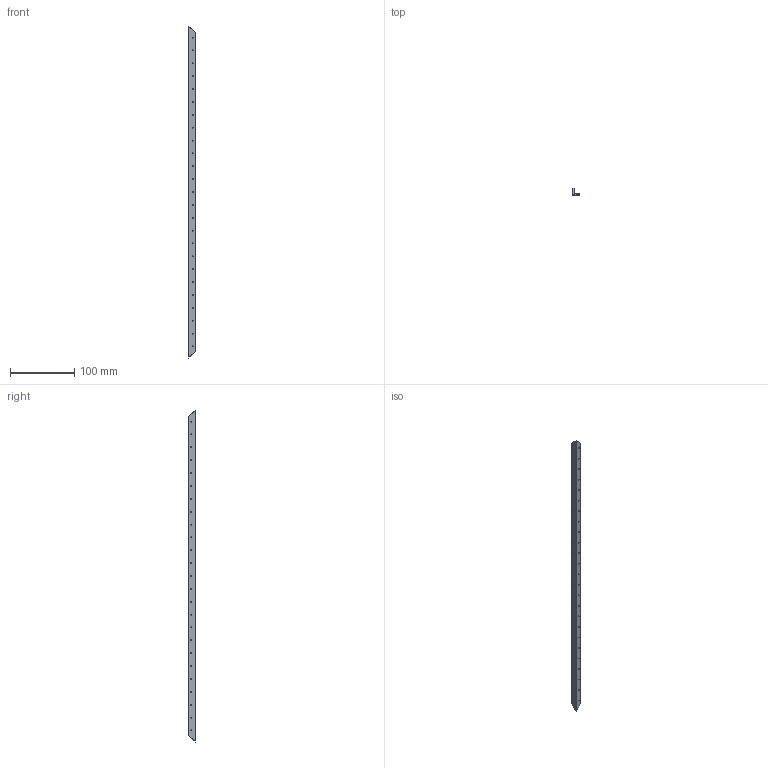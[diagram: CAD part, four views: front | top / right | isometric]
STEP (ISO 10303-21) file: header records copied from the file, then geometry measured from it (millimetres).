
FILE_DESCRIPTION (( 'STEP AP214' ), '1' );
FILE_NAME ('SC130.STEP', '2016-02-26T10:46:42', ( '' ), ( '' ), 'SwSTEP 2.0', 'SolidWorks 2012', '' );
FILE_SCHEMA (( 'AUTOMOTIVE_DESIGN' ));
Length unit declared in the file: millimetre
Products named in the file (1): SC130
Bounding box: 10 x 10 x 516 mm (x, y, z)
Volume: 17980.3 mm3; surface area: 20571.4 mm2
Topology: 1 solids, 1 shells, 110 faces, 320 edges, 212 vertices
Faces by surface type: cylinder 100, plane 10
Entity records: 3986 total; most frequent: DIRECTION 742, CARTESIAN_POINT 643, ORIENTED_EDGE 640, EDGE_CURVE 320, AXIS2_PLACEMENT_3D 311, VERTEX_POINT 212, EDGE_LOOP 210, CIRCLE 200
